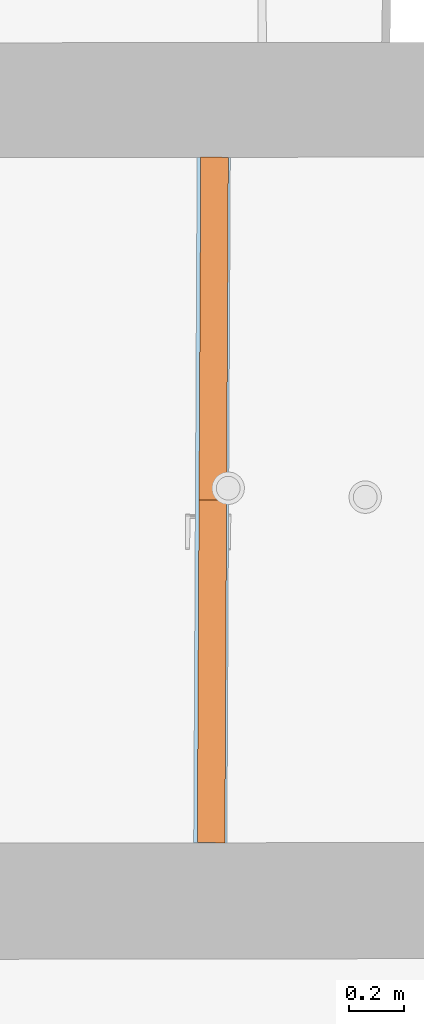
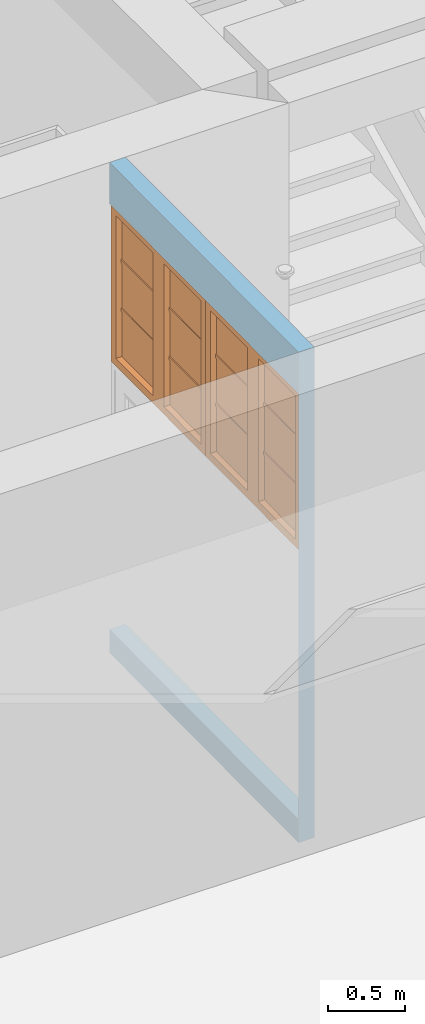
# One storey, part 71 of 158: 2 proxies, 3 openings, plus 1 element that does not belong to this part.
"""IFC2X3 building model written with IfcOpenShell, lengths in metres."""

from ifc_helpers import new_model, entity, si_unit, converted_unit, derived_unit, money_unit, direction, frame, origin_with_axes, origin_2d_with_axis, place, context, subcontext, project, spatial, polyline, rectangle, outline, extrude, faceted_brep, material, layer, layer_set, layer_usage, type_object, element, fill, save


model = new_model("IFC2X3")

# Units and contexts
model_context = context("Model", 3, precision=1e-05, world=origin_with_axes(), true_north=direction((0.0, 1.0)))
body_context = subcontext(model_context, "Body", "Model", "MODEL_VIEW")
ifc_project = project(units=[si_unit("LENGTHUNIT", "METRE"), si_unit("AREAUNIT", "SQUARE_METRE"), si_unit("VOLUMEUNIT", "CUBIC_METRE"), converted_unit("PLANEANGLEUNIT", "DEGREE", entity("IfcPlaneAngleMeasure", 0.0174532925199), si_unit("PLANEANGLEUNIT", "RADIAN"), dimensions=[0, 0, 0, 0, 0, 0, 0]), money_unit("EUR"), converted_unit("TIMEUNIT", "Year", entity("IfcTimeMeasure", 31556926.0), si_unit("TIMEUNIT", "SECOND"), dimensions=[0, 0, 1, 0, 0, 0, 0]), si_unit("MASSUNIT", "GRAM", prefix="KILO"), si_unit("THERMODYNAMICTEMPERATUREUNIT", "DEGREE_CELSIUS"), si_unit("LUMINOUSINTENSITYUNIT", "LUMEN"), si_unit("ENERGYUNIT", "JOULE", prefix="MEGA"), derived_unit("THERMALCONDUCTANCEUNIT", [(si_unit("POWERUNIT", "WATT"), 1), (si_unit("LENGTHUNIT", "METRE"), -1), (si_unit("THERMODYNAMICTEMPERATUREUNIT", "KELVIN"), -1)]), derived_unit("SPECIFICHEATCAPACITYUNIT", [(si_unit("ENERGYUNIT", "JOULE"), 1), (si_unit("MASSUNIT", "GRAM", prefix="KILO"), -1), (si_unit("THERMODYNAMICTEMPERATUREUNIT", "KELVIN"), -1)]), derived_unit("MASSDENSITYUNIT", [(si_unit("MASSUNIT", "GRAM", prefix="KILO"), 1), (si_unit("VOLUMEUNIT", "CUBIC_METRE"), -1)])], contexts=[model_context])

# Site, building, storey
site_placement = place(None, origin_with_axes())
site = spatial("IfcSite", under=ifc_project, at=site_placement, Name="Gelände", CompositionType="ELEMENT")
building_placement = place(site_placement, origin_with_axes())
building = spatial("IfcBuilding", under=site, at=building_placement, Name="Gebäude", CompositionType="ELEMENT")
storey_placement = place(building_placement, origin_with_axes())
storey = spatial("IfcBuildingStorey", under=building, at=storey_placement, Name="ERDGESCHOSS", CompositionType="ELEMENT", Elevation=0.0)

# Wall, openings, proxies
ifc_material = material(Name="05_ALLGEMEIN - TRAGENDE BAUTEILE")
ifc_layer = layer(ifc_material, 0.12, ventilated="UNKNOWN")
ifc_layer_set = layer_set([ifc_layer], Name="05_ALLGEMEIN - TRAGENDE BAUTEILE 0.12")
ifc_layer_usage = layer_usage(ifc_layer_set, "AXIS2", "NEGATIVE", 0.12)
wall_type = type_object("IfcWallType", Name="05_ALLGEMEIN - TRAGENDE BAUTEILE 120", PredefinedType="ELEMENTEDWALL")
wall_placement = place(storey_placement, frame((-11.0809286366, 16.7812376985, -0.295), z_axis=(0.0, 0.0, 1.0), x_axis=(0.00503369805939, 0.999987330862, 0.0)))
wall = element("IfcWallStandardCase", 1, at=wall_placement, inside=storey, type_object=wall_type, material=ifc_layer_usage, Name="Wand-036", ObjectType="ELEMENTEDWALL", context=body_context, shape_type="SweptSolid", body=[
    extrude(outline(polyline([(0.0, 0.0), (2.47919622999, 0.0), (2.4785181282, 0.12), (-0.000781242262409, 0.12), (0.0, 0.0)])), origin_with_axes(), (0.0, 0.0, 1.0), 3.895),
])
opening_1_placement = place(wall_placement, frame((1.85939717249, 0.0, 2.30983866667), z_axis=(0.0, 0.0, 1.0), x_axis=(1.0, 0.0, 0.0)))
opening_1 = element("IfcOpeningElement", 2, at=opening_1_placement, cuts=wall, Name="Fenster-016", context=body_context, shape_type="SweptSolid", body=[
    extrude(rectangle(XDim=1.23959811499, YDim=1.25641788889, at=origin_2d_with_axis()), frame((0.0, 0.007, 0.628208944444), z_axis=(0.0, 1.0, 0.0), x_axis=(-1.0, 0.0, 0.0)), (0.0, 0.0, 1.0), 0.233),
    extrude(rectangle(XDim=1.23959811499, YDim=1.25641788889, at=origin_2d_with_axis()), frame((0.0, 0.007, 0.628208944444), z_axis=(0.0, -1.0, 0.0), x_axis=(-1.0, 0.0, 0.0)), (0.0, 0.0, 1.0), 0.127),
])
opening_2_placement = place(wall_placement, frame((0.619799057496, 0.0, 2.30983866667), z_axis=(0.0, 0.0, 1.0), x_axis=(1.0, 0.0, 0.0)))
opening_2 = element("IfcOpeningElement", 3, at=opening_2_placement, cuts=wall, Name="Fenster-016", context=body_context, shape_type="SweptSolid", body=[
    extrude(rectangle(XDim=1.23959811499, YDim=1.25641788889, at=origin_2d_with_axis()), frame((0.0, 0.007, 0.628208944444), z_axis=(0.0, 1.0, 0.0), x_axis=(-1.0, 0.0, 0.0)), (0.0, 0.0, 1.0), 0.233),
    extrude(rectangle(XDim=1.23959811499, YDim=1.25641788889, at=origin_2d_with_axis()), frame((0.0, 0.007, 0.628208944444), z_axis=(0.0, -1.0, 0.0), x_axis=(-1.0, 0.0, 0.0)), (0.0, 0.0, 1.0), 0.127),
])
opening_3_placement = place(wall_placement, frame((1.23959811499, 0.0, 0.186866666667), z_axis=(0.0, 0.0, 1.0), x_axis=(1.0, 0.0, 0.0)))
element("IfcOpeningElement", 4, at=opening_3_placement, cuts=wall, Name="Tür-023", context=body_context, shape_type="SweptSolid", body=[
    extrude(rectangle(XDim=2.47919622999, YDim=2.122972, at=origin_2d_with_axis()), frame((0.0, 0.106776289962, 1.061486), z_axis=(0.0, -1.0, 0.0), x_axis=(-1.0, 0.0, 0.0)), (0.0, 0.0, 1.0), 0.226776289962),
    extrude(rectangle(XDim=2.47919622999, YDim=2.122972, at=origin_2d_with_axis()), frame((0.0, 0.106776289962, 1.061486), z_axis=(0.0, 1.0, 0.0), x_axis=(-1.0, 0.0, 0.0)), (0.0, 0.0, 1.0), 0.133223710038),
])
building_element_proxy_type = type_object("IfcBuildingElementProxyType", Name="2-Flügelfenster 1+1 25", PredefinedType="NOTDEFINED")
proxy_1_placement = place(opening_1_placement, frame((-0.619799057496, 0.0, 0.0), z_axis=(0.0, 0.0, 1.0), x_axis=(1.0, 0.0, 0.0)))
proxy_1 = element("IfcBuildingElementProxy", 5, at=proxy_1_placement, inside=storey, type_object=building_element_proxy_type, Name="Fenster-016", context=body_context, shape_type="Brep", body=[
    faceted_brep([(1.23959811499, 0.007, 0.0), (1.17959811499, 0.007, 0.06), (1.17959811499, 0.107, 0.06), (1.23959811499, 0.107, 0.0), (1.23959811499, 0.007, 1.25641788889), (1.17959811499, 0.007, 1.19641788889), (1.17959811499, 0.107, 1.19641788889), (1.23959811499, 0.107, 1.25641788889)], [[[0, 1, 2, 3]], [[0, 4, 5, 1]], [[1, 5, 6, 2]], [[3, 2, 6, 7]], [[4, 0, 3, 7]], [[5, 4, 7, 6]]]),
    faceted_brep([(0.0, 0.007, 0.0), (0.0, 0.007, 1.25641788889), (0.0, 0.107, 1.25641788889), (0.0, 0.107, 0.0), (0.06, 0.007, 0.06), (0.06, 0.007, 1.19641788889), (0.06, 0.107, 1.19641788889), (0.06, 0.107, 0.06)], [[[0, 1, 2, 3]], [[0, 4, 5, 1]], [[1, 5, 6, 2]], [[3, 2, 6, 7]], [[4, 0, 3, 7]], [[5, 4, 7, 6]]]),
    faceted_brep([(1.23959811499, 0.007, 0.0), (0.0, 0.007, 0.0), (0.0, 0.107, 0.0), (1.23959811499, 0.107, 0.0), (1.17959811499, 0.007, 0.06), (0.689799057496, 0.007, 0.06), (0.549799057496, 0.007, 0.06), (0.06, 0.007, 0.06), (0.06, 0.107, 0.06), (0.549799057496, 0.107, 0.06), (0.689799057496, 0.107, 0.06), (1.17959811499, 0.107, 0.06)], [[[0, 1, 2, 3]], [[0, 4, 5, 6, 7, 1]], [[1, 7, 8, 2]], [[3, 2, 8, 9, 10, 11]], [[4, 0, 3, 11]], [[5, 4, 11, 10]], [[6, 5, 10, 9]], [[7, 6, 9, 8]]]),
    faceted_brep([(1.23959811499, 0.007, 1.25641788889), (1.17959811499, 0.007, 1.19641788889), (1.17959811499, 0.107, 1.19641788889), (1.23959811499, 0.107, 1.25641788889), (0.0, 0.007, 1.25641788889), (0.06, 0.007, 1.19641788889), (0.549799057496, 0.007, 1.19641788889), (0.689799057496, 0.007, 1.19641788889), (0.689799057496, 0.107, 1.19641788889), (0.549799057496, 0.107, 1.19641788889), (0.06, 0.107, 1.19641788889), (0.0, 0.107, 1.25641788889)], [[[0, 1, 2, 3]], [[0, 4, 5, 6, 7, 1]], [[1, 7, 8, 2]], [[3, 2, 8, 9, 10, 11]], [[4, 0, 3, 11]], [[5, 4, 11, 10]], [[6, 5, 10, 9]], [[7, 6, 9, 8]]]),
    faceted_brep([(0.689799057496, 0.007, 0.06), (0.549799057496, 0.007, 0.06), (0.549799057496, 0.107, 0.06), (0.689799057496, 0.107, 0.06), (0.689799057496, 0.007, 1.19641788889), (0.549799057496, 0.007, 1.19641788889), (0.549799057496, 0.107, 1.19641788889), (0.689799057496, 0.107, 1.19641788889)], [[[0, 1, 2, 3]], [[0, 4, 5, 1]], [[1, 5, 6, 2]], [[3, 2, 6, 7]], [[4, 0, 3, 7]], [[5, 4, 7, 6]]]),
    faceted_brep([(1.17959811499, 0.0445, 0.422139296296), (0.689799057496, 0.0445, 0.422139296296), (0.689799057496, 0.057, 0.422139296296), (1.17959811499, 0.057, 0.422139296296), (1.17959811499, 0.0445, 0.447139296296), (0.689799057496, 0.0445, 0.447139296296), (0.689799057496, 0.057, 0.447139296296), (1.17959811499, 0.057, 0.447139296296)], [[[0, 1, 2, 3]], [[0, 4, 5, 1]], [[1, 5, 6, 2]], [[3, 2, 6, 7]], [[4, 0, 3, 7]], [[5, 4, 7, 6]]]),
    faceted_brep([(1.17959811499, 0.057, 0.422139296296), (0.689799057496, 0.057, 0.422139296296), (0.689799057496, 0.0695, 0.422139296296), (1.17959811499, 0.0695, 0.422139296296), (1.17959811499, 0.057, 0.447139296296), (0.689799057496, 0.057, 0.447139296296), (0.689799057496, 0.0695, 0.447139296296), (1.17959811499, 0.0695, 0.447139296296)], [[[0, 1, 2, 3]], [[0, 4, 5, 1]], [[1, 5, 6, 2]], [[3, 2, 6, 7]], [[4, 0, 3, 7]], [[5, 4, 7, 6]]]),
    faceted_brep([(1.17959811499, 0.0445, 0.809278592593), (0.689799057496, 0.0445, 0.809278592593), (0.689799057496, 0.057, 0.809278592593), (1.17959811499, 0.057, 0.809278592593), (1.17959811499, 0.0445, 0.834278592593), (0.689799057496, 0.0445, 0.834278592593), (0.689799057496, 0.057, 0.834278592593), (1.17959811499, 0.057, 0.834278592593)], [[[0, 1, 2, 3]], [[0, 4, 5, 1]], [[1, 5, 6, 2]], [[3, 2, 6, 7]], [[4, 0, 3, 7]], [[5, 4, 7, 6]]]),
    faceted_brep([(1.17959811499, 0.057, 0.809278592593), (0.689799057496, 0.057, 0.809278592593), (0.689799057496, 0.0695, 0.809278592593), (1.17959811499, 0.0695, 0.809278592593), (1.17959811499, 0.057, 0.834278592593), (0.689799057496, 0.057, 0.834278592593), (0.689799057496, 0.0695, 0.834278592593), (1.17959811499, 0.0695, 0.834278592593)], [[[0, 1, 2, 3]], [[0, 4, 5, 1]], [[1, 5, 6, 2]], [[3, 2, 6, 7]], [[4, 0, 3, 7]], [[5, 4, 7, 6]]]),
    faceted_brep([(0.689799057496, 0.062, 0.809278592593), (0.689799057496, 0.062, 0.447139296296), (0.689799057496, 0.052, 0.447139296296), (0.689799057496, 0.052, 0.809278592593), (1.17959811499, 0.062, 0.809278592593), (1.17959811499, 0.062, 0.447139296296), (1.17959811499, 0.052, 0.447139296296), (1.17959811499, 0.052, 0.809278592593)], [[[0, 1, 2, 3]], [[4, 5, 1, 0]], [[2, 1, 5, 6]], [[3, 2, 6, 7]], [[7, 4, 0, 3]], [[7, 6, 5, 4]]]),
    faceted_brep([(0.689799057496, 0.052, 0.06), (0.689799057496, 0.052, 0.422139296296), (0.689799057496, 0.062, 0.422139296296), (0.689799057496, 0.062, 0.06), (1.17959811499, 0.052, 0.06), (1.17959811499, 0.052, 0.422139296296), (1.17959811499, 0.062, 0.422139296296), (1.17959811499, 0.062, 0.06)], [[[0, 1, 2, 3]], [[4, 5, 1, 0]], [[2, 1, 5, 6]], [[3, 2, 6, 7]], [[0, 3, 7, 4]], [[7, 6, 5, 4]]]),
    faceted_brep([(1.17959811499, 0.052, 0.834278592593), (1.17959811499, 0.052, 1.19641788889), (0.689799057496, 0.052, 1.19641788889), (0.689799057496, 0.052, 0.834278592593), (1.17959811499, 0.062, 0.834278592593), (1.17959811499, 0.062, 1.19641788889), (0.689799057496, 0.062, 1.19641788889), (0.689799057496, 0.062, 0.834278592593)], [[[0, 1, 2, 3]], [[4, 5, 1, 0]], [[5, 6, 2, 1]], [[3, 2, 6, 7]], [[7, 4, 0, 3]], [[7, 6, 5, 4]]]),
    faceted_brep([(0.549799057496, 0.0445, 0.422139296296), (0.06, 0.0445, 0.422139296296), (0.06, 0.057, 0.422139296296), (0.549799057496, 0.057, 0.422139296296), (0.549799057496, 0.0445, 0.447139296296), (0.06, 0.0445, 0.447139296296), (0.06, 0.057, 0.447139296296), (0.549799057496, 0.057, 0.447139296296)], [[[0, 1, 2, 3]], [[0, 4, 5, 1]], [[1, 5, 6, 2]], [[3, 2, 6, 7]], [[4, 0, 3, 7]], [[5, 4, 7, 6]]]),
    faceted_brep([(0.549799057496, 0.057, 0.422139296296), (0.06, 0.057, 0.422139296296), (0.06, 0.0695, 0.422139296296), (0.549799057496, 0.0695, 0.422139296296), (0.549799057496, 0.057, 0.447139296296), (0.06, 0.057, 0.447139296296), (0.06, 0.0695, 0.447139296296), (0.549799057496, 0.0695, 0.447139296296)], [[[0, 1, 2, 3]], [[0, 4, 5, 1]], [[1, 5, 6, 2]], [[3, 2, 6, 7]], [[4, 0, 3, 7]], [[5, 4, 7, 6]]]),
    faceted_brep([(0.549799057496, 0.0445, 0.809278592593), (0.06, 0.0445, 0.809278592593), (0.06, 0.057, 0.809278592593), (0.549799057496, 0.057, 0.809278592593), (0.549799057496, 0.0445, 0.834278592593), (0.06, 0.0445, 0.834278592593), (0.06, 0.057, 0.834278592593), (0.549799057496, 0.057, 0.834278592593)], [[[0, 1, 2, 3]], [[0, 4, 5, 1]], [[1, 5, 6, 2]], [[3, 2, 6, 7]], [[4, 0, 3, 7]], [[5, 4, 7, 6]]]),
    faceted_brep([(0.549799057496, 0.057, 0.809278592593), (0.06, 0.057, 0.809278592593), (0.06, 0.0695, 0.809278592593), (0.549799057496, 0.0695, 0.809278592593), (0.549799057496, 0.057, 0.834278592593), (0.06, 0.057, 0.834278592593), (0.06, 0.0695, 0.834278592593), (0.549799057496, 0.0695, 0.834278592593)], [[[0, 1, 2, 3]], [[0, 4, 5, 1]], [[1, 5, 6, 2]], [[3, 2, 6, 7]], [[4, 0, 3, 7]], [[5, 4, 7, 6]]]),
    faceted_brep([(0.06, 0.062, 0.809278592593), (0.06, 0.062, 0.447139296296), (0.06, 0.052, 0.447139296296), (0.06, 0.052, 0.809278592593), (0.549799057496, 0.062, 0.809278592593), (0.549799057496, 0.062, 0.447139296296), (0.549799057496, 0.052, 0.447139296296), (0.549799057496, 0.052, 0.809278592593)], [[[0, 1, 2, 3]], [[4, 5, 1, 0]], [[2, 1, 5, 6]], [[3, 2, 6, 7]], [[7, 4, 0, 3]], [[7, 6, 5, 4]]]),
    faceted_brep([(0.06, 0.052, 0.06), (0.06, 0.052, 0.422139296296), (0.06, 0.062, 0.422139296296), (0.06, 0.062, 0.06), (0.549799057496, 0.052, 0.06), (0.549799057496, 0.052, 0.422139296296), (0.549799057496, 0.062, 0.422139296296), (0.549799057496, 0.062, 0.06)], [[[0, 1, 2, 3]], [[4, 5, 1, 0]], [[2, 1, 5, 6]], [[3, 2, 6, 7]], [[0, 3, 7, 4]], [[7, 6, 5, 4]]]),
    faceted_brep([(0.549799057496, 0.052, 0.834278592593), (0.549799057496, 0.052, 1.19641788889), (0.06, 0.052, 1.19641788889), (0.06, 0.052, 0.834278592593), (0.549799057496, 0.062, 0.834278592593), (0.549799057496, 0.062, 1.19641788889), (0.06, 0.062, 1.19641788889), (0.06, 0.062, 0.834278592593)], [[[0, 1, 2, 3]], [[4, 5, 1, 0]], [[5, 6, 2, 1]], [[3, 2, 6, 7]], [[7, 4, 0, 3]], [[7, 6, 5, 4]]]),
])
fill(opening_1, proxy_1)
proxy_2_placement = place(opening_2_placement, frame((-0.619799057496, 0.0, 0.0), z_axis=(0.0, 0.0, 1.0), x_axis=(1.0, 0.0, 0.0)))
proxy_2 = element("IfcBuildingElementProxy", 6, at=proxy_2_placement, inside=storey, type_object=building_element_proxy_type, Name="Fenster-016", context=body_context, shape_type="Brep", body=[
    faceted_brep([(1.23959811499, 0.007, 0.0), (1.17959811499, 0.007, 0.06), (1.17959811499, 0.107, 0.06), (1.23959811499, 0.107, 0.0), (1.23959811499, 0.007, 1.25641788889), (1.17959811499, 0.007, 1.19641788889), (1.17959811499, 0.107, 1.19641788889), (1.23959811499, 0.107, 1.25641788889)], [[[0, 1, 2, 3]], [[0, 4, 5, 1]], [[1, 5, 6, 2]], [[3, 2, 6, 7]], [[4, 0, 3, 7]], [[5, 4, 7, 6]]]),
    faceted_brep([(0.0, 0.007, 0.0), (0.0, 0.007, 1.25641788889), (0.0, 0.107, 1.25641788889), (0.0, 0.107, 0.0), (0.06, 0.007, 0.06), (0.06, 0.007, 1.19641788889), (0.06, 0.107, 1.19641788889), (0.06, 0.107, 0.06)], [[[0, 1, 2, 3]], [[0, 4, 5, 1]], [[1, 5, 6, 2]], [[3, 2, 6, 7]], [[4, 0, 3, 7]], [[5, 4, 7, 6]]]),
    faceted_brep([(1.23959811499, 0.007, 0.0), (0.0, 0.007, 0.0), (0.0, 0.107, 0.0), (1.23959811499, 0.107, 0.0), (1.17959811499, 0.007, 0.06), (0.689799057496, 0.007, 0.06), (0.549799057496, 0.007, 0.06), (0.06, 0.007, 0.06), (0.06, 0.107, 0.06), (0.549799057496, 0.107, 0.06), (0.689799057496, 0.107, 0.06), (1.17959811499, 0.107, 0.06)], [[[0, 1, 2, 3]], [[0, 4, 5, 6, 7, 1]], [[1, 7, 8, 2]], [[3, 2, 8, 9, 10, 11]], [[4, 0, 3, 11]], [[5, 4, 11, 10]], [[6, 5, 10, 9]], [[7, 6, 9, 8]]]),
    faceted_brep([(1.23959811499, 0.007, 1.25641788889), (1.17959811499, 0.007, 1.19641788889), (1.17959811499, 0.107, 1.19641788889), (1.23959811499, 0.107, 1.25641788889), (0.0, 0.007, 1.25641788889), (0.06, 0.007, 1.19641788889), (0.549799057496, 0.007, 1.19641788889), (0.689799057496, 0.007, 1.19641788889), (0.689799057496, 0.107, 1.19641788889), (0.549799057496, 0.107, 1.19641788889), (0.06, 0.107, 1.19641788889), (0.0, 0.107, 1.25641788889)], [[[0, 1, 2, 3]], [[0, 4, 5, 6, 7, 1]], [[1, 7, 8, 2]], [[3, 2, 8, 9, 10, 11]], [[4, 0, 3, 11]], [[5, 4, 11, 10]], [[6, 5, 10, 9]], [[7, 6, 9, 8]]]),
    faceted_brep([(0.689799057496, 0.007, 0.06), (0.549799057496, 0.007, 0.06), (0.549799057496, 0.107, 0.06), (0.689799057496, 0.107, 0.06), (0.689799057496, 0.007, 1.19641788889), (0.549799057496, 0.007, 1.19641788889), (0.549799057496, 0.107, 1.19641788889), (0.689799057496, 0.107, 1.19641788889)], [[[0, 1, 2, 3]], [[0, 4, 5, 1]], [[1, 5, 6, 2]], [[3, 2, 6, 7]], [[4, 0, 3, 7]], [[5, 4, 7, 6]]]),
    faceted_brep([(1.17959811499, 0.0445, 0.422139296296), (0.689799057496, 0.0445, 0.422139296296), (0.689799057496, 0.057, 0.422139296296), (1.17959811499, 0.057, 0.422139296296), (1.17959811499, 0.0445, 0.447139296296), (0.689799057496, 0.0445, 0.447139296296), (0.689799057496, 0.057, 0.447139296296), (1.17959811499, 0.057, 0.447139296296)], [[[0, 1, 2, 3]], [[0, 4, 5, 1]], [[1, 5, 6, 2]], [[3, 2, 6, 7]], [[4, 0, 3, 7]], [[5, 4, 7, 6]]]),
    faceted_brep([(1.17959811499, 0.057, 0.422139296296), (0.689799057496, 0.057, 0.422139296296), (0.689799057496, 0.0695, 0.422139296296), (1.17959811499, 0.0695, 0.422139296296), (1.17959811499, 0.057, 0.447139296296), (0.689799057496, 0.057, 0.447139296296), (0.689799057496, 0.0695, 0.447139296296), (1.17959811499, 0.0695, 0.447139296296)], [[[0, 1, 2, 3]], [[0, 4, 5, 1]], [[1, 5, 6, 2]], [[3, 2, 6, 7]], [[4, 0, 3, 7]], [[5, 4, 7, 6]]]),
    faceted_brep([(1.17959811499, 0.0445, 0.809278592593), (0.689799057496, 0.0445, 0.809278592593), (0.689799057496, 0.057, 0.809278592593), (1.17959811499, 0.057, 0.809278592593), (1.17959811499, 0.0445, 0.834278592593), (0.689799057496, 0.0445, 0.834278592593), (0.689799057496, 0.057, 0.834278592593), (1.17959811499, 0.057, 0.834278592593)], [[[0, 1, 2, 3]], [[0, 4, 5, 1]], [[1, 5, 6, 2]], [[3, 2, 6, 7]], [[4, 0, 3, 7]], [[5, 4, 7, 6]]]),
    faceted_brep([(1.17959811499, 0.057, 0.809278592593), (0.689799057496, 0.057, 0.809278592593), (0.689799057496, 0.0695, 0.809278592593), (1.17959811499, 0.0695, 0.809278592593), (1.17959811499, 0.057, 0.834278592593), (0.689799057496, 0.057, 0.834278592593), (0.689799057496, 0.0695, 0.834278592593), (1.17959811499, 0.0695, 0.834278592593)], [[[0, 1, 2, 3]], [[0, 4, 5, 1]], [[1, 5, 6, 2]], [[3, 2, 6, 7]], [[4, 0, 3, 7]], [[5, 4, 7, 6]]]),
    faceted_brep([(0.689799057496, 0.062, 0.809278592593), (0.689799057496, 0.062, 0.447139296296), (0.689799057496, 0.052, 0.447139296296), (0.689799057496, 0.052, 0.809278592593), (1.17959811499, 0.062, 0.809278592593), (1.17959811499, 0.062, 0.447139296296), (1.17959811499, 0.052, 0.447139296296), (1.17959811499, 0.052, 0.809278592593)], [[[0, 1, 2, 3]], [[4, 5, 1, 0]], [[2, 1, 5, 6]], [[3, 2, 6, 7]], [[7, 4, 0, 3]], [[7, 6, 5, 4]]]),
    faceted_brep([(0.689799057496, 0.052, 0.06), (0.689799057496, 0.052, 0.422139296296), (0.689799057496, 0.062, 0.422139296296), (0.689799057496, 0.062, 0.06), (1.17959811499, 0.052, 0.06), (1.17959811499, 0.052, 0.422139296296), (1.17959811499, 0.062, 0.422139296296), (1.17959811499, 0.062, 0.06)], [[[0, 1, 2, 3]], [[4, 5, 1, 0]], [[2, 1, 5, 6]], [[3, 2, 6, 7]], [[0, 3, 7, 4]], [[7, 6, 5, 4]]]),
    faceted_brep([(1.17959811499, 0.052, 0.834278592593), (1.17959811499, 0.052, 1.19641788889), (0.689799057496, 0.052, 1.19641788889), (0.689799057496, 0.052, 0.834278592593), (1.17959811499, 0.062, 0.834278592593), (1.17959811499, 0.062, 1.19641788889), (0.689799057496, 0.062, 1.19641788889), (0.689799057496, 0.062, 0.834278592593)], [[[0, 1, 2, 3]], [[4, 5, 1, 0]], [[5, 6, 2, 1]], [[3, 2, 6, 7]], [[7, 4, 0, 3]], [[7, 6, 5, 4]]]),
    faceted_brep([(0.549799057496, 0.0445, 0.422139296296), (0.06, 0.0445, 0.422139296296), (0.06, 0.057, 0.422139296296), (0.549799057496, 0.057, 0.422139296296), (0.549799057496, 0.0445, 0.447139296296), (0.06, 0.0445, 0.447139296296), (0.06, 0.057, 0.447139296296), (0.549799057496, 0.057, 0.447139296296)], [[[0, 1, 2, 3]], [[0, 4, 5, 1]], [[1, 5, 6, 2]], [[3, 2, 6, 7]], [[4, 0, 3, 7]], [[5, 4, 7, 6]]]),
    faceted_brep([(0.549799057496, 0.057, 0.422139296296), (0.06, 0.057, 0.422139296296), (0.06, 0.0695, 0.422139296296), (0.549799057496, 0.0695, 0.422139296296), (0.549799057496, 0.057, 0.447139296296), (0.06, 0.057, 0.447139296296), (0.06, 0.0695, 0.447139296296), (0.549799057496, 0.0695, 0.447139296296)], [[[0, 1, 2, 3]], [[0, 4, 5, 1]], [[1, 5, 6, 2]], [[3, 2, 6, 7]], [[4, 0, 3, 7]], [[5, 4, 7, 6]]]),
    faceted_brep([(0.549799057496, 0.0445, 0.809278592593), (0.06, 0.0445, 0.809278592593), (0.06, 0.057, 0.809278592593), (0.549799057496, 0.057, 0.809278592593), (0.549799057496, 0.0445, 0.834278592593), (0.06, 0.0445, 0.834278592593), (0.06, 0.057, 0.834278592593), (0.549799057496, 0.057, 0.834278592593)], [[[0, 1, 2, 3]], [[0, 4, 5, 1]], [[1, 5, 6, 2]], [[3, 2, 6, 7]], [[4, 0, 3, 7]], [[5, 4, 7, 6]]]),
    faceted_brep([(0.549799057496, 0.057, 0.809278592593), (0.06, 0.057, 0.809278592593), (0.06, 0.0695, 0.809278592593), (0.549799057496, 0.0695, 0.809278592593), (0.549799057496, 0.057, 0.834278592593), (0.06, 0.057, 0.834278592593), (0.06, 0.0695, 0.834278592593), (0.549799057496, 0.0695, 0.834278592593)], [[[0, 1, 2, 3]], [[0, 4, 5, 1]], [[1, 5, 6, 2]], [[3, 2, 6, 7]], [[4, 0, 3, 7]], [[5, 4, 7, 6]]]),
    faceted_brep([(0.06, 0.062, 0.809278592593), (0.06, 0.062, 0.447139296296), (0.06, 0.052, 0.447139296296), (0.06, 0.052, 0.809278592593), (0.549799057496, 0.062, 0.809278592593), (0.549799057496, 0.062, 0.447139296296), (0.549799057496, 0.052, 0.447139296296), (0.549799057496, 0.052, 0.809278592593)], [[[0, 1, 2, 3]], [[4, 5, 1, 0]], [[2, 1, 5, 6]], [[3, 2, 6, 7]], [[7, 4, 0, 3]], [[7, 6, 5, 4]]]),
    faceted_brep([(0.06, 0.052, 0.06), (0.06, 0.052, 0.422139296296), (0.06, 0.062, 0.422139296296), (0.06, 0.062, 0.06), (0.549799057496, 0.052, 0.06), (0.549799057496, 0.052, 0.422139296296), (0.549799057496, 0.062, 0.422139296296), (0.549799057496, 0.062, 0.06)], [[[0, 1, 2, 3]], [[4, 5, 1, 0]], [[2, 1, 5, 6]], [[3, 2, 6, 7]], [[0, 3, 7, 4]], [[7, 6, 5, 4]]]),
    faceted_brep([(0.549799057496, 0.052, 0.834278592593), (0.549799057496, 0.052, 1.19641788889), (0.06, 0.052, 1.19641788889), (0.06, 0.052, 0.834278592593), (0.549799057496, 0.062, 0.834278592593), (0.549799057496, 0.062, 1.19641788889), (0.06, 0.062, 1.19641788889), (0.06, 0.062, 0.834278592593)], [[[0, 1, 2, 3]], [[4, 5, 1, 0]], [[5, 6, 2, 1]], [[3, 2, 6, 7]], [[7, 4, 0, 3]], [[7, 6, 5, 4]]]),
])
fill(opening_2, proxy_2)

save(model, "model.ifc")
